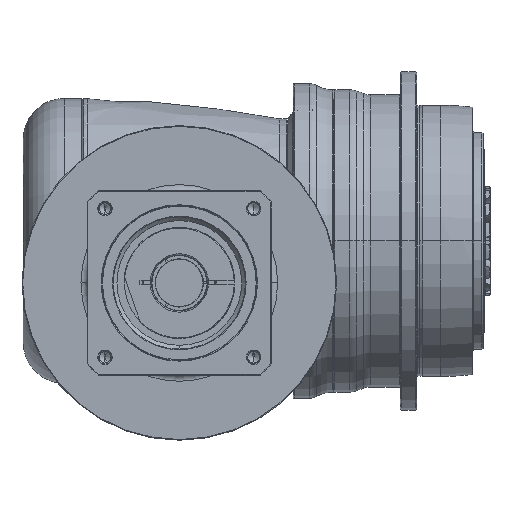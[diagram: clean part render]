
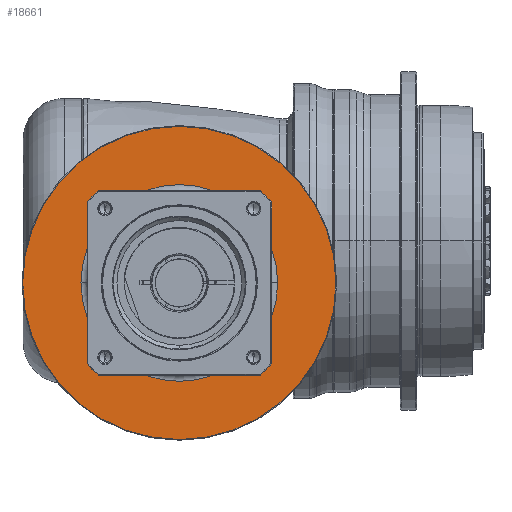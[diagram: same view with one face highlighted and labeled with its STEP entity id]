
A CAD part, front view. The second image highlights one B-rep face of the part: STEP entity #18661.
In plain terms, the highlighted planar face has unit normal (0, -1, 0) as drawn and (1, 0, 0) by its records, which use the part's own axes.
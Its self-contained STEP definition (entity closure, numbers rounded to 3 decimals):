
#18140=CARTESIAN_POINT('',(-7.5,0.,0.));
#18141=DIRECTION('',(-1.,0.,0.));
#18142=DIRECTION('',(0.,-1.,0.));
#18143=AXIS2_PLACEMENT_3D('',#18140,#18141,#18142);
#18145=CARTESIAN_POINT('',(-7.5,0.,0.));
#18146=DIRECTION('',(-1.,0.,0.));
#18147=DIRECTION('',(0.,1.,0.));
#18148=AXIS2_PLACEMENT_3D('',#18145,#18146,#18147);
#18150=CARTESIAN_POINT('',(-7.5,0.,0.));
#18151=DIRECTION('',(-1.,0.,0.));
#18152=DIRECTION('',(0.,-1.,0.));
#18153=AXIS2_PLACEMENT_3D('',#18150,#18151,#18152);
#18155=CARTESIAN_POINT('',(-7.5,0.,0.));
#18156=DIRECTION('',(-1.,0.,0.));
#18157=DIRECTION('',(0.,1.,0.));
#18158=AXIS2_PLACEMENT_3D('',#18155,#18156,#18157);
#18224=CARTESIAN_POINT('',(-7.5,-115.5,0.));
#18225=CARTESIAN_POINT('',(-7.5,115.5,0.));
#18226=VERTEX_POINT('',#18224);
#18227=VERTEX_POINT('',#18225);
#18248=CARTESIAN_POINT('',(-7.5,-72.5,0.));
#18249=CARTESIAN_POINT('',(-7.5,72.5,0.));
#18250=VERTEX_POINT('',#18248);
#18251=VERTEX_POINT('',#18249);
#18646=CARTESIAN_POINT('',(-7.5,0.,0.));
#18647=DIRECTION('',(1.,0.,0.));
#18648=DIRECTION('',(0.,-1.,0.));
#18649=AXIS2_PLACEMENT_3D('',#18646,#18647,#18648);
#18650=PLANE('',#18649);
#18651=ORIENTED_EDGE('',*,*,#18587,.T.);
#18652=ORIENTED_EDGE('',*,*,#18602,.T.);
#18653=EDGE_LOOP('',(#18651,#18652));
#18654=FACE_OUTER_BOUND('',#18653,.F.);
#18656=ORIENTED_EDGE('',*,*,#18655,.F.);
#18658=ORIENTED_EDGE('',*,*,#18657,.F.);
#18659=EDGE_LOOP('',(#18656,#18658));
#18660=FACE_BOUND('',#18659,.F.);
#18661=ADVANCED_FACE('',(#18654,#18660),#18650,.T.);
#18144=CIRCLE('',#18143,72.5);
#18149=CIRCLE('',#18148,72.5);
#18154=CIRCLE('',#18153,115.5);
#18159=CIRCLE('',#18158,115.5);
#18587=EDGE_CURVE('',#18226,#18227,#18154,.T.);
#18602=EDGE_CURVE('',#18227,#18226,#18159,.T.);
#18655=EDGE_CURVE('',#18250,#18251,#18144,.T.);
#18657=EDGE_CURVE('',#18251,#18250,#18149,.T.);
